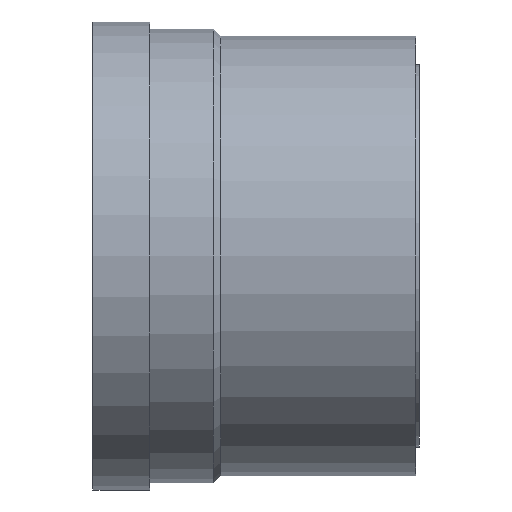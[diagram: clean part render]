
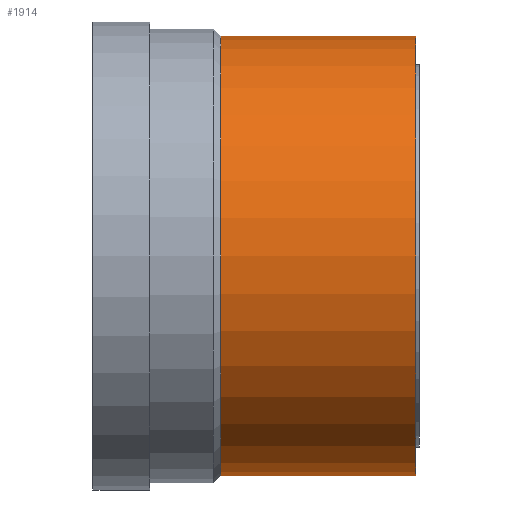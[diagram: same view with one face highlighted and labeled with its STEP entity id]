
A CAD part, left-side view. The second image highlights one B-rep face of the part: STEP entity #1914.
In plain terms, the highlighted cylindrical face has radius 31 mm (diameter 62 mm), a partial arc.
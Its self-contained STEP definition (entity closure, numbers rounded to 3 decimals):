
#319 = AXIS2_PLACEMENT_3D ( 'NONE', #2066, #10290, #11011 ) ;
#683 = CARTESIAN_POINT ( 'NONE',  ( 0., -31.5, 31. ) ) ;
#1098 = EDGE_LOOP ( 'NONE', ( #3666, #6719, #6758, #2022 ) ) ;
#1273 = CIRCLE ( 'NONE', #319, 31. ) ;
#1537 = VECTOR ( 'NONE', #7519, 1000. ) ;
#1914 = ADVANCED_FACE ( 'NONE', ( #10331 ), #8478, .T. ) ;
#2022 = ORIENTED_EDGE ( 'NONE', *, *, #2511, .F. ) ;
#2066 = CARTESIAN_POINT ( 'NONE',  ( 0., -4., 0. ) ) ;
#2511 = EDGE_CURVE ( 'NONE', #8319, #10393, #1273, .T. ) ;
#2798 = AXIS2_PLACEMENT_3D ( 'NONE', #11689, #11628, #5180 ) ;
#2896 = CARTESIAN_POINT ( 'NONE',  ( 0., -4., -31. ) ) ;
#3232 = CARTESIAN_POINT ( 'NONE',  ( 0., -32.05, 0. ) ) ;
#3666 = ORIENTED_EDGE ( 'NONE', *, *, #6694, .F. ) ;
#3849 = CARTESIAN_POINT ( 'NONE',  ( 0., -32.05, -31. ) ) ;
#4696 = VERTEX_POINT ( 'NONE', #8434 ) ;
#5180 = DIRECTION ( 'NONE',  ( 0., 0., 1. ) ) ;
#5649 = CIRCLE ( 'NONE', #2798, 31. ) ;
#6123 = EDGE_CURVE ( 'NONE', #4696, #6957, #5649, .T. ) ;
#6642 = VECTOR ( 'NONE', #11309, 1000. ) ;
#6694 = EDGE_CURVE ( 'NONE', #4696, #8319, #7659, .T. ) ;
#6719 = ORIENTED_EDGE ( 'NONE', *, *, #6123, .T. ) ;
#6758 = ORIENTED_EDGE ( 'NONE', *, *, #11527, .T. ) ;
#6957 = VERTEX_POINT ( 'NONE', #683 ) ;
#7519 = DIRECTION ( 'NONE',  ( 0., 1., 0. ) ) ;
#7524 = DIRECTION ( 'NONE',  ( 0., 1., 0. ) ) ;
#7659 = LINE ( 'NONE', #3849, #6642 ) ;
#8319 = VERTEX_POINT ( 'NONE', #2896 ) ;
#8418 = LINE ( 'NONE', #10505, #1537 ) ;
#8434 = CARTESIAN_POINT ( 'NONE',  ( 0., -31.5, -31. ) ) ;
#8478 = CYLINDRICAL_SURFACE ( 'NONE', #10481, 31. ) ;
#9379 = DIRECTION ( 'NONE',  ( 0., 0., 1. ) ) ;
#10261 = CARTESIAN_POINT ( 'NONE',  ( 0., -4., 31. ) ) ;
#10290 = DIRECTION ( 'NONE',  ( 0., 1., 0. ) ) ;
#10331 = FACE_OUTER_BOUND ( 'NONE', #1098, .T. ) ;
#10393 = VERTEX_POINT ( 'NONE', #10261 ) ;
#10481 = AXIS2_PLACEMENT_3D ( 'NONE', #3232, #7524, #9379 ) ;
#10505 = CARTESIAN_POINT ( 'NONE',  ( 0., -32.05, 31. ) ) ;
#11011 = DIRECTION ( 'NONE',  ( 0.857, 0., 0.515 ) ) ;
#11309 = DIRECTION ( 'NONE',  ( 0., 1., 0. ) ) ;
#11527 = EDGE_CURVE ( 'NONE', #6957, #10393, #8418, .T. ) ;
#11628 = DIRECTION ( 'NONE',  ( 0., 1., 0. ) ) ;
#11689 = CARTESIAN_POINT ( 'NONE',  ( 0., -31.5, 0. ) ) ;
